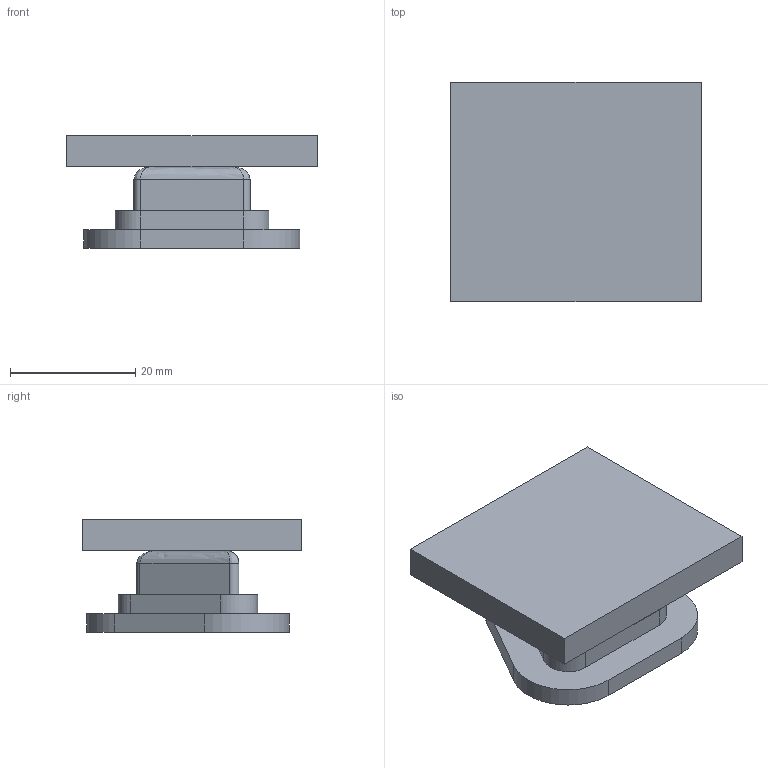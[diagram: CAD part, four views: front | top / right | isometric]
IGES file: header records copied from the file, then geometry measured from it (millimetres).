
Global section: file name: Mold and casting v5; native system: unknown; preprocessor: unknown; author: unknown; organization: unknown; date: 20170628.182716; units: millimetre
Bounding box: 40 x 35 x 18 mm (x, y, z)
Volume: 10595.5 mm3; surface area: 6328 mm2
Topology: 3 solids, 3 shells, 43 faces, 93 edges, 55 vertices
Faces by surface type: bspline 43
